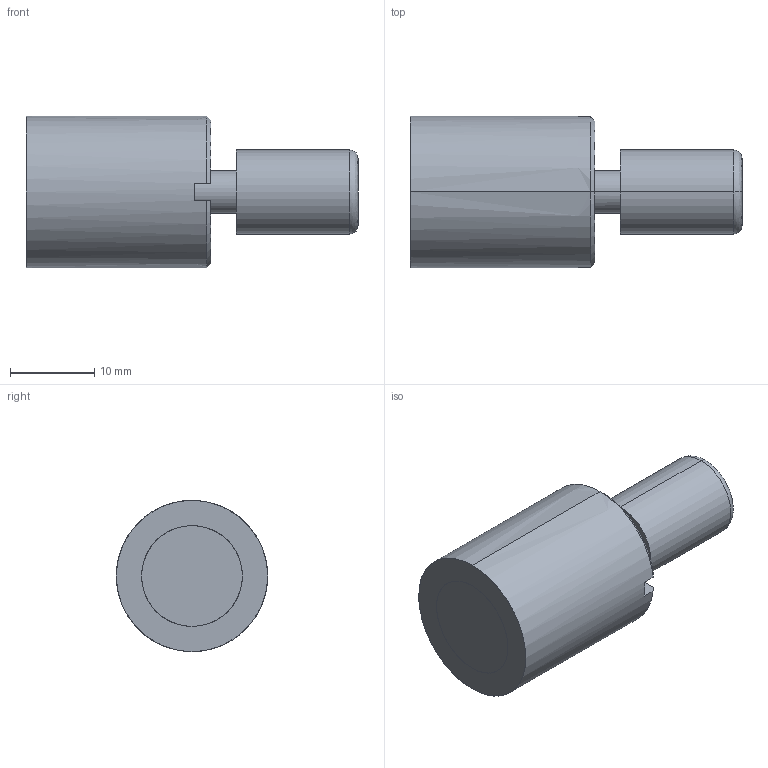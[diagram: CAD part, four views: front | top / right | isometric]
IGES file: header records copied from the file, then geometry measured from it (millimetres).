
Start section: START RECORD GO HERE.
Global section: file name: CF-VPA18.igs; native system: DASSAULT SYSTEMES CATIA V5 R20 - www.3ds.com; preprocessor: CATIA Version 5 Release 20 ; author: Utente; organization: NB04-ASUS; date: 20210320.173935; units: millimetre
Bounding box: 39.5 x 18 x 18 mm (x, y, z)
Surface area: 3291.1 mm2 (no closed solid volume)
Topology: 0 solids, 0 shells, 30 faces, 176 edges, 176 vertices
Faces by surface type: revolution 18, plane 12
